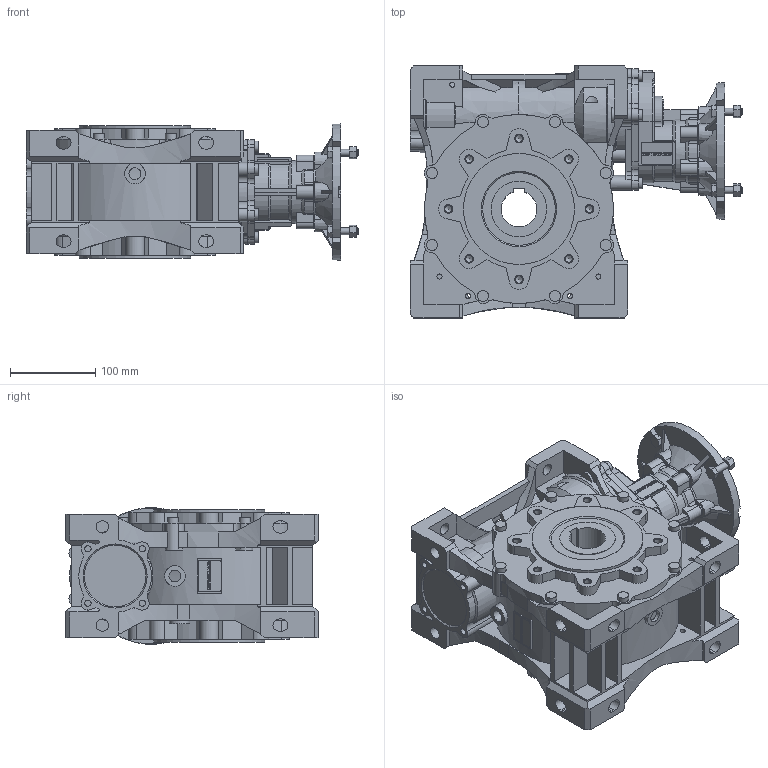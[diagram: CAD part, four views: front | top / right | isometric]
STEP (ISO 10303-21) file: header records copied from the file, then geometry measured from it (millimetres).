
FILE_DESCRIPTION(/* description */ ('STEP AP214'),/* implementation_level */ '2;1');
FILE_NAME(/* name */ 'NMRVP_HW 040-110 186.32 (3.11x60) 160x14 42 NO NO - - NO - - - NO NO - --(--------)',/* time_stamp */ '2024-10-09T11:13:17+02:00',/* author */ ('License CC BY-ND 4.0'),/* organization */ ('CADENAS'),/* preprocessor_version */ 'ST-DEVELOPER v19.3',/* originating_system */ 'PARTsolutions',/* authorisation */ ' ');
FILE_SCHEMA (('AUTOMOTIVE_DESIGN {1 0 10303 214 3 1 1}'));
Length unit declared in the file: millimetre
Products named in the file (8): NMRVP/HW 040-110 186.32 (3.11x60) 160x14 42 NO NO - - NO - - - NO NO 
- --(--------); W.110.01.M; 110-42 (155); W.110.14.19.M-phw; 110-65; HW40; 6371 B5; PC.040.27.14.M
Assembly tree (7 placements, depth 2):
  NMRVP/HW 040-110 186.32 (3.11x60) 160x14 42 NO NO - - NO - - - NO NO 
- --(--------)
    W.110.01.M
    110-42 (155)
    W.110.14.19.M-phw
    110-65
    HW40
    6371 B5
    PC.040.27.14.M
Bounding box: 388.5 x 295 x 159.47 mm (x, y, z)
Volume: 7996963.5 mm3; surface area: 736491.8 mm2
Topology: 7 solids, 11 shells, 1860 faces, 5036 edges, 3328 vertices
Faces by surface type: plane 983, cylinder 745, cone 125, torus 7
Full cylindrical faces by diameter (mm): 6 x10, 7.45 x12, 8 x8, 8.376 x16, 13 x14, 14 x8, 14.5 x2, 18 x1, 20 x1, 24 x2, 32 x1, 39 x1, 40 x1, 41 x1, 55 x1, 56 x1, 63 x1, 65 x3, 68 x2, 90 x3, 110 x1, 130 x2
Entity records: 71463 total; most frequent: CARTESIAN_POINT 11398, DIRECTION 9910, ORIENTED_EDGE 9708, EDGE_CURVE 4854, AXIS2_PLACEMENT_3D 3555, VERTEX_POINT 3301, LINE 2800, VECTOR 2800
